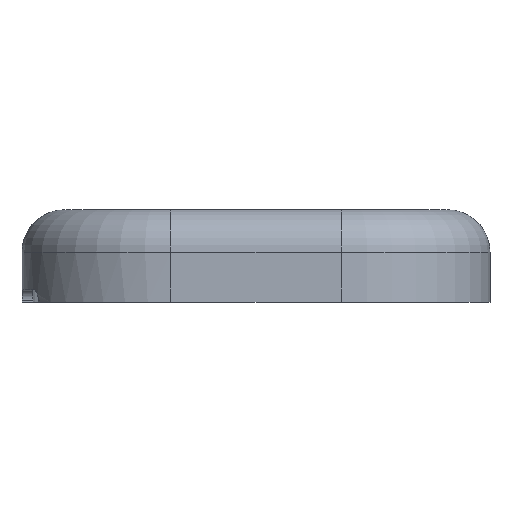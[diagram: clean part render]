
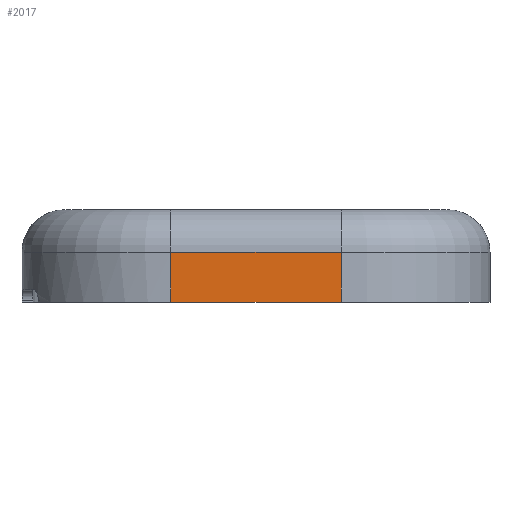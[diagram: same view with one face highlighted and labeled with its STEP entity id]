
A CAD part, front view. The second image highlights one B-rep face of the part: STEP entity #2017.
In plain terms, the highlighted planar face has unit normal (0, -1, 0).
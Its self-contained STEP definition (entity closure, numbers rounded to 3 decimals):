
#263 = CYLINDRICAL_SURFACE('',#264,28.);
#264 = AXIS2_PLACEMENT_3D('',#265,#266,#267);
#265 = CARTESIAN_POINT('',(-16.,-40.,-13.2));
#266 = DIRECTION('',(0.,0.,1.));
#267 = DIRECTION('',(-0.707,-0.707,0.));
#726 = VERTEX_POINT('',#727);
#727 = CARTESIAN_POINT('',(-16.,-68.,-4.2));
#742 = PLANE('',#743);
#743 = AXIS2_PLACEMENT_3D('',#744,#745,#746);
#744 = CARTESIAN_POINT('',(0.,0.,-4.2));
#745 = DIRECTION('',(0.,0.,1.));
#746 = DIRECTION('',(1.,0.,-0.));
#754 = EDGE_CURVE('',#726,#755,#757,.T.);
#755 = VERTEX_POINT('',#756);
#756 = CARTESIAN_POINT('',(-16.,-68.,5.2));
#757 = SURFACE_CURVE('',#758,(#762,#769),.PCURVE_S1.);
#758 = LINE('',#759,#760);
#759 = CARTESIAN_POINT('',(-16.,-68.,-13.2));
#760 = VECTOR('',#761,1.);
#761 = DIRECTION('',(0.,0.,1.));
#762 = PCURVE('',#263,#763);
#763 = DEFINITIONAL_REPRESENTATION('',(#764),#768);
#764 = LINE('',#765,#766);
#765 = CARTESIAN_POINT('',(7.069,0.));
#766 = VECTOR('',#767,1.);
#767 = DIRECTION('',(0.,1.));
#768 = ( GEOMETRIC_REPRESENTATION_CONTEXT(2) 
PARAMETRIC_REPRESENTATION_CONTEXT() REPRESENTATION_CONTEXT('2D SPACE',''
  ) );
#769 = PCURVE('',#770,#775);
#770 = PLANE('',#771);
#771 = AXIS2_PLACEMENT_3D('',#772,#773,#774);
#772 = CARTESIAN_POINT('',(-44.,-68.,-13.2));
#773 = DIRECTION('',(0.,-1.,0.));
#774 = DIRECTION('',(1.,0.,0.));
#775 = DEFINITIONAL_REPRESENTATION('',(#776),#780);
#776 = LINE('',#777,#778);
#777 = CARTESIAN_POINT('',(28.,0.));
#778 = VECTOR('',#779,1.);
#779 = DIRECTION('',(0.,1.));
#780 = ( GEOMETRIC_REPRESENTATION_CONTEXT(2) 
PARAMETRIC_REPRESENTATION_CONTEXT() REPRESENTATION_CONTEXT('2D SPACE',''
  ) );
#1864 = VERTEX_POINT('',#1865);
#1865 = CARTESIAN_POINT('',(16.,-68.,-4.2));
#1880 = CYLINDRICAL_SURFACE('',#1881,28.);
#1881 = AXIS2_PLACEMENT_3D('',#1882,#1883,#1884);
#1882 = CARTESIAN_POINT('',(16.,-40.,-13.2));
#1883 = DIRECTION('',(0.,0.,1.));
#1884 = DIRECTION('',(0.707,-0.707,0.));
#1892 = EDGE_CURVE('',#726,#1864,#1893,.T.);
#1893 = SURFACE_CURVE('',#1894,(#1898,#1905),.PCURVE_S1.);
#1894 = LINE('',#1895,#1896);
#1895 = CARTESIAN_POINT('',(-22.,-68.,-4.2));
#1896 = VECTOR('',#1897,1.);
#1897 = DIRECTION('',(1.,0.,0.));
#1898 = PCURVE('',#742,#1899);
#1899 = DEFINITIONAL_REPRESENTATION('',(#1900),#1904);
#1900 = LINE('',#1901,#1902);
#1901 = CARTESIAN_POINT('',(-22.,-68.));
#1902 = VECTOR('',#1903,1.);
#1903 = DIRECTION('',(1.,0.));
#1904 = ( GEOMETRIC_REPRESENTATION_CONTEXT(2) 
PARAMETRIC_REPRESENTATION_CONTEXT() REPRESENTATION_CONTEXT('2D SPACE',''
  ) );
#1905 = PCURVE('',#770,#1906);
#1906 = DEFINITIONAL_REPRESENTATION('',(#1907),#1911);
#1907 = LINE('',#1908,#1909);
#1908 = CARTESIAN_POINT('',(22.,9.));
#1909 = VECTOR('',#1910,1.);
#1910 = DIRECTION('',(1.,0.));
#1911 = ( GEOMETRIC_REPRESENTATION_CONTEXT(2) 
PARAMETRIC_REPRESENTATION_CONTEXT() REPRESENTATION_CONTEXT('2D SPACE',''
  ) );
#2017 = ADVANCED_FACE('',(#2018),#770,.T.);
#2018 = FACE_BOUND('',#2019,.T.);
#2019 = EDGE_LOOP('',(#2020,#2021,#2044,#2070));
#2020 = ORIENTED_EDGE('',*,*,#1892,.T.);
#2021 = ORIENTED_EDGE('',*,*,#2022,.F.);
#2022 = EDGE_CURVE('',#2023,#1864,#2025,.T.);
#2023 = VERTEX_POINT('',#2024);
#2024 = CARTESIAN_POINT('',(16.,-68.,5.2));
#2025 = SURFACE_CURVE('',#2026,(#2030,#2037),.PCURVE_S1.);
#2026 = LINE('',#2027,#2028);
#2027 = CARTESIAN_POINT('',(16.,-68.,-13.2));
#2028 = VECTOR('',#2029,1.);
#2029 = DIRECTION('',(0.,0.,-1.));
#2030 = PCURVE('',#770,#2031);
#2031 = DEFINITIONAL_REPRESENTATION('',(#2032),#2036);
#2032 = LINE('',#2033,#2034);
#2033 = CARTESIAN_POINT('',(60.,0.));
#2034 = VECTOR('',#2035,1.);
#2035 = DIRECTION('',(0.,-1.));
#2036 = ( GEOMETRIC_REPRESENTATION_CONTEXT(2) 
PARAMETRIC_REPRESENTATION_CONTEXT() REPRESENTATION_CONTEXT('2D SPACE',''
  ) );
#2037 = PCURVE('',#1880,#2038);
#2038 = DEFINITIONAL_REPRESENTATION('',(#2039),#2043);
#2039 = LINE('',#2040,#2041);
#2040 = CARTESIAN_POINT('',(-0.785,0.));
#2041 = VECTOR('',#2042,1.);
#2042 = DIRECTION('',(0.,-1.));
#2043 = ( GEOMETRIC_REPRESENTATION_CONTEXT(2) 
PARAMETRIC_REPRESENTATION_CONTEXT() REPRESENTATION_CONTEXT('2D SPACE',''
  ) );
#2044 = ORIENTED_EDGE('',*,*,#2045,.F.);
#2045 = EDGE_CURVE('',#755,#2023,#2046,.T.);
#2046 = SURFACE_CURVE('',#2047,(#2051,#2058),.PCURVE_S1.);
#2047 = LINE('',#2048,#2049);
#2048 = CARTESIAN_POINT('',(-22.,-68.,5.2));
#2049 = VECTOR('',#2050,1.);
#2050 = DIRECTION('',(1.,0.,0.));
#2051 = PCURVE('',#770,#2052);
#2052 = DEFINITIONAL_REPRESENTATION('',(#2053),#2057);
#2053 = LINE('',#2054,#2055);
#2054 = CARTESIAN_POINT('',(22.,18.4));
#2055 = VECTOR('',#2056,1.);
#2056 = DIRECTION('',(1.,0.));
#2057 = ( GEOMETRIC_REPRESENTATION_CONTEXT(2) 
PARAMETRIC_REPRESENTATION_CONTEXT() REPRESENTATION_CONTEXT('2D SPACE',''
  ) );
#2058 = PCURVE('',#2059,#2064);
#2059 = CYLINDRICAL_SURFACE('',#2060,8.);
#2060 = AXIS2_PLACEMENT_3D('',#2061,#2062,#2063);
#2061 = CARTESIAN_POINT('',(-22.,-60.,5.2));
#2062 = DIRECTION('',(1.,0.,0.));
#2063 = DIRECTION('',(0.,-0.707,0.707));
#2064 = DEFINITIONAL_REPRESENTATION('',(#2065),#2069);
#2065 = LINE('',#2066,#2067);
#2066 = CARTESIAN_POINT('',(7.069,0.));
#2067 = VECTOR('',#2068,1.);
#2068 = DIRECTION('',(0.,1.));
#2069 = ( GEOMETRIC_REPRESENTATION_CONTEXT(2) 
PARAMETRIC_REPRESENTATION_CONTEXT() REPRESENTATION_CONTEXT('2D SPACE',''
  ) );
#2070 = ORIENTED_EDGE('',*,*,#754,.F.);
